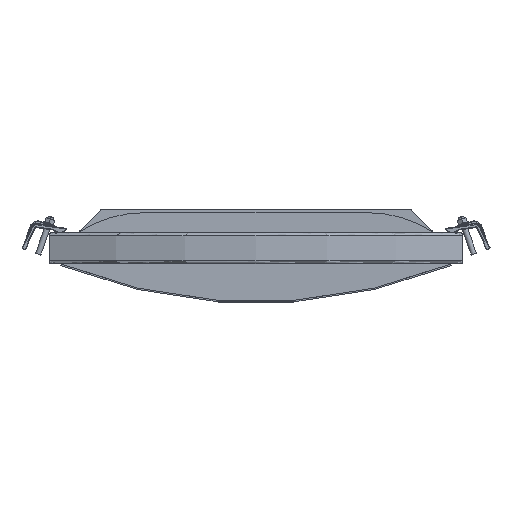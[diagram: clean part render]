
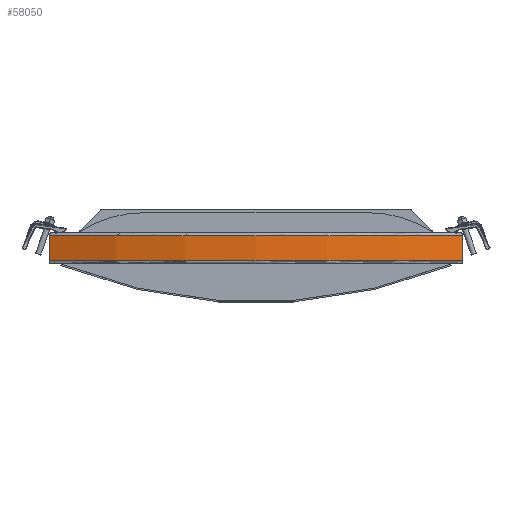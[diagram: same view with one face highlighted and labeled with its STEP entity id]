
A CAD part, front view. The second image highlights one B-rep face of the part: STEP entity #58050.
In plain terms, the highlighted cylindrical face has radius 672 mm (diameter 1344 mm), a partial arc.
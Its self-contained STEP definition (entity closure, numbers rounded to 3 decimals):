
#1725 = EDGE_CURVE ( 'NONE', #24695, #8045, #22823, .T. ) ;
#3838 = EDGE_LOOP ( 'NONE', ( #4070, #19783, #26604, #56406 ) ) ;
#4070 = ORIENTED_EDGE ( 'NONE', *, *, #46900, .F. ) ;
#4569 = CARTESIAN_POINT ( 'NONE',  ( 0., 660., 4. ) ) ;
#8009 = DIRECTION ( 'NONE',  ( -1., 0., 0. ) ) ;
#8045 = VERTEX_POINT ( 'NONE', #28387 ) ;
#8129 = CYLINDRICAL_SURFACE ( 'NONE', #22771, 672. ) ;
#10023 = DIRECTION ( 'NONE',  ( -1., 0., 0. ) ) ;
#10915 = CARTESIAN_POINT ( 'NONE',  ( -295.273, 56.346, 40. ) ) ;
#14405 = DIRECTION ( 'NONE',  ( 0., 0., -1. ) ) ;
#14629 = VERTEX_POINT ( 'NONE', #38411 ) ;
#19783 = ORIENTED_EDGE ( 'NONE', *, *, #1725, .T. ) ;
#22452 = CARTESIAN_POINT ( 'NONE',  ( -295.273, 56.346, 4. ) ) ;
#22771 = AXIS2_PLACEMENT_3D ( 'NONE', #29179, #48115, #43421 ) ;
#22823 = CIRCLE ( 'NONE', #30711, 672. ) ;
#22983 = CARTESIAN_POINT ( 'NONE',  ( 295.273, 56.346, 40. ) ) ;
#23386 = CIRCLE ( 'NONE', #61082, 672. ) ;
#24232 = EDGE_CURVE ( 'NONE', #14629, #42492, #23386, .T. ) ;
#24695 = VERTEX_POINT ( 'NONE', #46323 ) ;
#25718 = EDGE_CURVE ( 'NONE', #8045, #42492, #34473, .T. ) ;
#26604 = ORIENTED_EDGE ( 'NONE', *, *, #25718, .T. ) ;
#27298 = DIRECTION ( 'NONE',  ( 0., 0., -1. ) ) ;
#28387 = CARTESIAN_POINT ( 'NONE',  ( -295.273, 56.346, 40. ) ) ;
#29179 = CARTESIAN_POINT ( 'NONE',  ( 0., 660., 0. ) ) ;
#30711 = AXIS2_PLACEMENT_3D ( 'NONE', #56945, #14405, #10023 ) ;
#34473 = LINE ( 'NONE', #10915, #60309 ) ;
#36321 = FACE_OUTER_BOUND ( 'NONE', #3838, .T. ) ;
#37207 = LINE ( 'NONE', #22983, #48763 ) ;
#38411 = CARTESIAN_POINT ( 'NONE',  ( 295.273, 56.346, 4. ) ) ;
#42492 = VERTEX_POINT ( 'NONE', #22452 ) ;
#43421 = DIRECTION ( 'NONE',  ( -1., 0., 0. ) ) ;
#46323 = CARTESIAN_POINT ( 'NONE',  ( 295.273, 56.346, 40. ) ) ;
#46900 = EDGE_CURVE ( 'NONE', #24695, #14629, #37207, .T. ) ;
#47095 = DIRECTION ( 'NONE',  ( 0., 0., -1. ) ) ;
#48115 = DIRECTION ( 'NONE',  ( 0., 0., -1. ) ) ;
#48763 = VECTOR ( 'NONE', #27298, 1000. ) ;
#56406 = ORIENTED_EDGE ( 'NONE', *, *, #24232, .F. ) ;
#56945 = CARTESIAN_POINT ( 'NONE',  ( 0., 660., 40. ) ) ;
#58050 = ADVANCED_FACE ( 'NONE', ( #36321 ), #8129, .T. ) ;
#58131 = DIRECTION ( 'NONE',  ( 0., 0., -1. ) ) ;
#60309 = VECTOR ( 'NONE', #58131, 1000. ) ;
#61082 = AXIS2_PLACEMENT_3D ( 'NONE', #4569, #47095, #8009 ) ;
